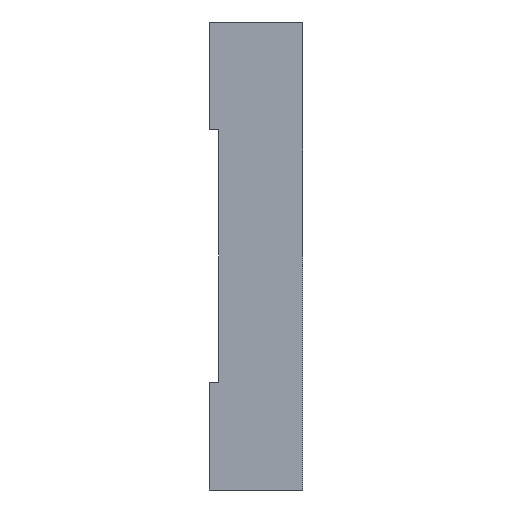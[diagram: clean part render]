
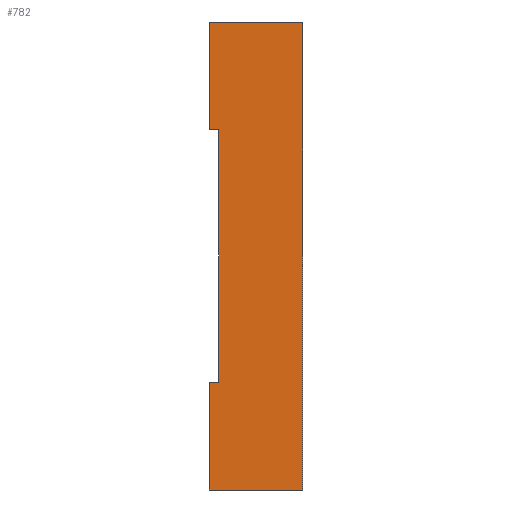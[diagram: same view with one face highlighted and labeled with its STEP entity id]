
A CAD part, left-side view. The second image highlights one B-rep face of the part: STEP entity #782.
In plain terms, the highlighted planar face has unit normal (-1, 0, 0).
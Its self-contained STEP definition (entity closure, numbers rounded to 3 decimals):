
#48 = EDGE_LOOP ( 'NONE', ( #993, #912, #910, #953, #889, #868, #1103, #870 ) ) ;
#110 = LINE ( 'NONE', #1388, #115 ) ;
#115 = VECTOR ( 'NONE', #1398, 1000. ) ;
#163 = LINE ( 'NONE', #1519, #188 ) ;
#187 = LINE ( 'NONE', #1530, #196 ) ;
#188 = VECTOR ( 'NONE', #1523, 1000. ) ;
#190 = LINE ( 'NONE', #1524, #192 ) ;
#191 = LINE ( 'NONE', #1534, #194 ) ;
#192 = VECTOR ( 'NONE', #1525, 1000. ) ;
#193 = LINE ( 'NONE', #1529, #202 ) ;
#194 = VECTOR ( 'NONE', #1535, 1000. ) ;
#195 = LINE ( 'NONE', #1537, #198 ) ;
#196 = VECTOR ( 'NONE', #1536, 1000. ) ;
#197 = LINE ( 'NONE', #1539, #200 ) ;
#198 = VECTOR ( 'NONE', #1538, 1000. ) ;
#200 = VECTOR ( 'NONE', #1540, 1000. ) ;
#202 = VECTOR ( 'NONE', #1541, 1000. ) ;
#329 = EDGE_CURVE ( 'NONE', #2313, #2298, #110, .T. ) ;
#383 = EDGE_CURVE ( 'NONE', #2321, #2280, #163, .T. ) ;
#386 = EDGE_CURVE ( 'NONE', #2307, #2280, #190, .T. ) ;
#387 = EDGE_CURVE ( 'NONE', #2306, #2307, #191, .T. ) ;
#388 = EDGE_CURVE ( 'NONE', #2306, #2298, #187, .T. ) ;
#389 = EDGE_CURVE ( 'NONE', #2291, #2313, #195, .T. ) ;
#390 = EDGE_CURVE ( 'NONE', #2282, #2291, #197, .T. ) ;
#391 = EDGE_CURVE ( 'NONE', #2282, #2321, #193, .T. ) ;
#449 = CARTESIAN_POINT ( 'NONE',  ( -68., 0., 50. ) ) ;
#451 = CARTESIAN_POINT ( 'NONE',  ( -68., 20., -50. ) ) ;
#460 = CARTESIAN_POINT ( 'NONE',  ( -68., 20., -27. ) ) ;
#467 = CARTESIAN_POINT ( 'NONE',  ( -68., 18., 27. ) ) ;
#475 = CARTESIAN_POINT ( 'NONE',  ( -68., 20., 27. ) ) ;
#476 = CARTESIAN_POINT ( 'NONE',  ( -68., 20., 50. ) ) ;
#482 = CARTESIAN_POINT ( 'NONE',  ( -68., 18., -27. ) ) ;
#490 = CARTESIAN_POINT ( 'NONE',  ( -68., 0., -50. ) ) ;
#782 = ADVANCED_FACE ( 'NONE', ( #2015 ), #1725, .F. ) ;
#868 = ORIENTED_EDGE ( 'NONE', *, *, #389, .F. ) ;
#870 = ORIENTED_EDGE ( 'NONE', *, *, #391, .T. ) ;
#889 = ORIENTED_EDGE ( 'NONE', *, *, #329, .F. ) ;
#910 = ORIENTED_EDGE ( 'NONE', *, *, #387, .F. ) ;
#912 = ORIENTED_EDGE ( 'NONE', *, *, #386, .F. ) ;
#953 = ORIENTED_EDGE ( 'NONE', *, *, #388, .T. ) ;
#993 = ORIENTED_EDGE ( 'NONE', *, *, #383, .T. ) ;
#1103 = ORIENTED_EDGE ( 'NONE', *, *, #390, .F. ) ;
#1388 = CARTESIAN_POINT ( 'NONE',  ( -68., 18., -50. ) ) ;
#1398 = DIRECTION ( 'NONE',  ( 0., 0., 1. ) ) ;
#1519 = CARTESIAN_POINT ( 'NONE',  ( -68., 0., -50. ) ) ;
#1523 = DIRECTION ( 'NONE',  ( 0., 0., 1. ) ) ;
#1524 = CARTESIAN_POINT ( 'NONE',  ( -68., 18., 50. ) ) ;
#1525 = DIRECTION ( 'NONE',  ( 0., -1., 0. ) ) ;
#1529 = CARTESIAN_POINT ( 'NONE',  ( -68., 18., -50. ) ) ;
#1530 = CARTESIAN_POINT ( 'NONE',  ( -68., 20., 27. ) ) ;
#1534 = CARTESIAN_POINT ( 'NONE',  ( -68., 20., 50. ) ) ;
#1535 = DIRECTION ( 'NONE',  ( 0., 0., 1. ) ) ;
#1536 = DIRECTION ( 'NONE',  ( 0., -1., 0. ) ) ;
#1537 = CARTESIAN_POINT ( 'NONE',  ( -68., 20., -27. ) ) ;
#1538 = DIRECTION ( 'NONE',  ( 0., -1., 0. ) ) ;
#1539 = CARTESIAN_POINT ( 'NONE',  ( -68., 20., -50. ) ) ;
#1540 = DIRECTION ( 'NONE',  ( 0., 0., 1. ) ) ;
#1541 = DIRECTION ( 'NONE',  ( 0., -1., 0. ) ) ;
#1599 = AXIS2_PLACEMENT_3D ( 'NONE', #1718, #1727, #1728 ) ;
#1718 = CARTESIAN_POINT ( 'NONE',  ( -68., 18., -50. ) ) ;
#1725 = PLANE ( 'NONE',  #1599 ) ;
#1727 = DIRECTION ( 'NONE',  ( 1., 0., 0. ) ) ;
#1728 = DIRECTION ( 'NONE',  ( 0., 0., -1. ) ) ;
#2015 = FACE_OUTER_BOUND ( 'NONE', #48, .T. ) ;
#2280 = VERTEX_POINT ( 'NONE', #449 ) ;
#2282 = VERTEX_POINT ( 'NONE', #451 ) ;
#2291 = VERTEX_POINT ( 'NONE', #460 ) ;
#2298 = VERTEX_POINT ( 'NONE', #467 ) ;
#2306 = VERTEX_POINT ( 'NONE', #475 ) ;
#2307 = VERTEX_POINT ( 'NONE', #476 ) ;
#2313 = VERTEX_POINT ( 'NONE', #482 ) ;
#2321 = VERTEX_POINT ( 'NONE', #490 ) ;
